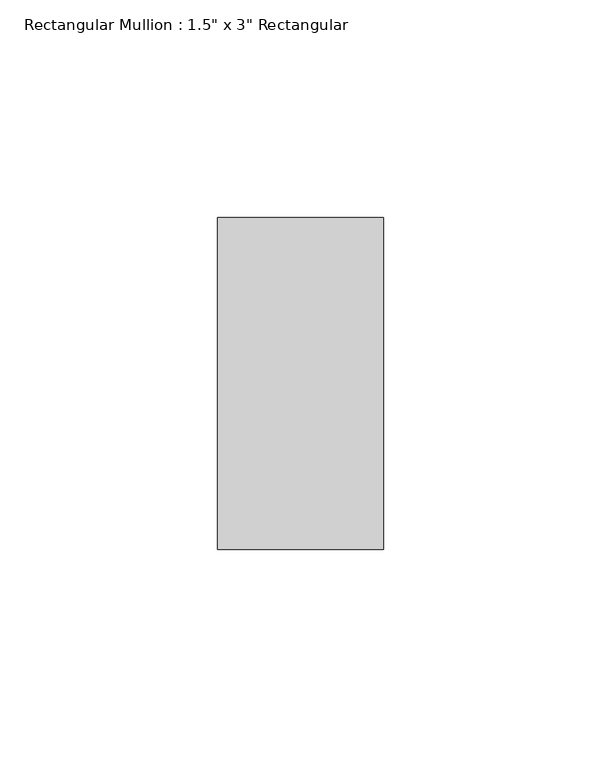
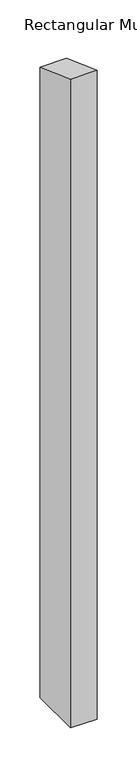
"""IFC4 building model written with IfcOpenShell, lengths in millimetres: member geometry."""

from ifc_helpers import new_model, si_unit, frame, origin, place, context, project, spatial, polyline, outline, extrude, source, transform, mapped, element, save


def member_73da9355(model_context):
    return source(origin(), model_context, "Body", "SweptSolid", [
        extrude(outline(polyline([(-38.1, 13.8672659), (38.1, -13.8672659), (38.1, -974.1966611), (-38.1, -974.1966611), (-38.1, 13.8672659)])), frame((-38.1, 0.0, 0.0), z_axis=(1.0, 0.0, 0.0), x_axis=(0.0, 1.0, 0.0)), (0.0, 0.0, 1.0), 38.1),
    ])


if __name__ == "__main__":
    model = new_model("IFC4")
    model_context = context("Model", 3, world=origin())
    ifc_project = project(units=[si_unit("LENGTHUNIT", "METRE", prefix="MILLI")], contexts=[model_context])
    site = spatial("IfcSite", under=ifc_project)
    building = spatial("IfcBuilding", under=site)
    placement = place(None, origin())
    member_shape = member_73da9355(model_context)
    element("IfcMember", 1, ObjectType="Rectangular Mullion : 1.5\" x 3\" Rectangular", at=placement, inside=building, context=model_context, shape_type="MappedRepresentation", body=[
        mapped(member_shape, transform((0.0, 0.0, 0.0), x_axis=(1.0, 0.0, 0.0), y_axis=(0.0, 1.0, 0.0), z_axis=(0.0, 0.0, 1.0))),
    ])
    save(model, "model.ifc")
